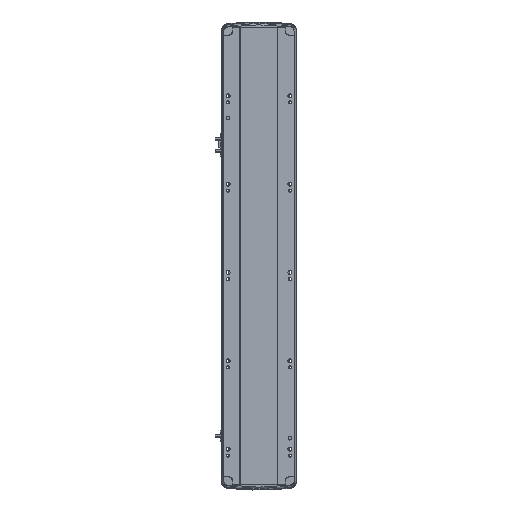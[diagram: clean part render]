
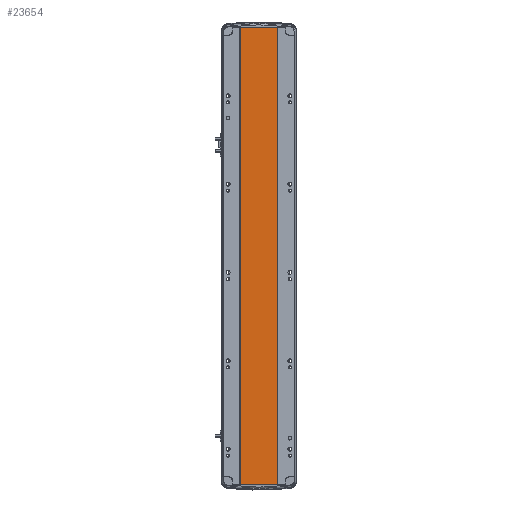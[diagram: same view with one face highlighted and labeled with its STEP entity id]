
A CAD part, front view. The second image highlights one B-rep face of the part: STEP entity #23654.
In plain terms, the highlighted planar face has unit normal (0, -1, 0).
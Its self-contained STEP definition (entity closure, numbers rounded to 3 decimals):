
#17 = AXIS2_PLACEMENT_3D ( 'NONE', #4719, #20470, #11476 ) ;
#890 = CARTESIAN_POINT ( 'NONE',  ( 0., 0.999, 0. ) ) ;
#1457 = CARTESIAN_POINT ( 'NONE',  ( -41.791, 1., 1034.5 ) ) ;
#1622 = VERTEX_POINT ( 'NONE', #1457 ) ;
#3056 = ORIENTED_EDGE ( 'NONE', *, *, #28245, .F. ) ;
#3396 = CARTESIAN_POINT ( 'NONE',  ( 0., 0.999, 1034.5 ) ) ;
#4052 = DIRECTION ( 'NONE',  ( 1., 0., 0. ) ) ;
#4719 = CARTESIAN_POINT ( 'NONE',  ( 0., 0.999, 1034.5 ) ) ;
#4948 = ORIENTED_EDGE ( 'NONE', *, *, #27421, .T. ) ;
#6466 = LINE ( 'NONE', #3396, #17279 ) ;
#6944 = VERTEX_POINT ( 'NONE', #14428 ) ;
#7372 = CARTESIAN_POINT ( 'NONE',  ( -41.791, 1., 1034.5 ) ) ;
#7511 = VECTOR ( 'NONE', #26430, 1000. ) ;
#10513 = CARTESIAN_POINT ( 'NONE',  ( 41.793, 0.998, 1034.5 ) ) ;
#11476 = DIRECTION ( 'NONE',  ( -1., 0., 0. ) ) ;
#13520 = DIRECTION ( 'NONE',  ( 0., 0., -1. ) ) ;
#14274 = ORIENTED_EDGE ( 'NONE', *, *, #35245, .F. ) ;
#14428 = CARTESIAN_POINT ( 'NONE',  ( -41.791, 1., 0. ) ) ;
#16104 = LINE ( 'NONE', #890, #17625 ) ;
#16971 = PLANE ( 'NONE',  #17 ) ;
#17279 = VECTOR ( 'NONE', #21935, 1000. ) ;
#17625 = VECTOR ( 'NONE', #4052, 1000. ) ;
#20110 = VERTEX_POINT ( 'NONE', #10513 ) ;
#20470 = DIRECTION ( 'NONE',  ( 0., 1., 0. ) ) ;
#21935 = DIRECTION ( 'NONE',  ( 1., 0., 0. ) ) ;
#23458 = FACE_OUTER_BOUND ( 'NONE', #33464, .T. ) ;
#23637 = EDGE_CURVE ( 'NONE', #6944, #36048, #16104, .T. ) ;
#23654 = ADVANCED_FACE ( 'NONE', ( #23458 ), #16971, .F. ) ;
#26430 = DIRECTION ( 'NONE',  ( 0., 0., -1. ) ) ;
#27421 = EDGE_CURVE ( 'NONE', #1622, #6944, #39888, .T. ) ;
#28245 = EDGE_CURVE ( 'NONE', #1622, #20110, #6466, .T. ) ;
#30855 = LINE ( 'NONE', #38599, #38751 ) ;
#31857 = CARTESIAN_POINT ( 'NONE',  ( 41.793, 0.998, 0. ) ) ;
#33464 = EDGE_LOOP ( 'NONE', ( #35554, #14274, #3056, #4948 ) ) ;
#35245 = EDGE_CURVE ( 'NONE', #20110, #36048, #30855, .T. ) ;
#35554 = ORIENTED_EDGE ( 'NONE', *, *, #23637, .T. ) ;
#36048 = VERTEX_POINT ( 'NONE', #31857 ) ;
#38599 = CARTESIAN_POINT ( 'NONE',  ( 41.793, 0.998, 1034.5 ) ) ;
#38751 = VECTOR ( 'NONE', #13520, 1000. ) ;
#39888 = LINE ( 'NONE', #7372, #7511 ) ;
